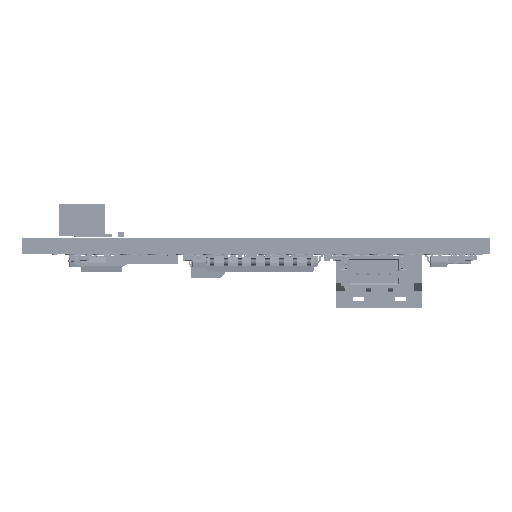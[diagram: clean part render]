
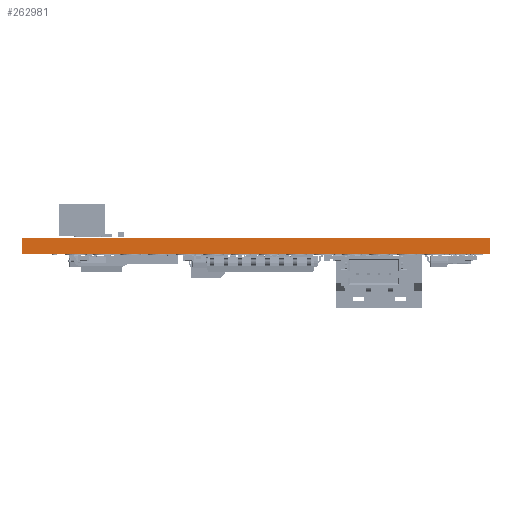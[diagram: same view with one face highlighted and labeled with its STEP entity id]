
A CAD part, left-side view. The second image highlights one B-rep face of the part: STEP entity #262981.
In plain terms, the highlighted planar face has unit normal (-1, 0, 0).
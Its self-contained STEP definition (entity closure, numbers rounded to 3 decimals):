
#262516 = VERTEX_POINT('',#262517);
#262517 = CARTESIAN_POINT('',(0.,43.,0.));
#262523 = EDGE_CURVE('',#262524,#262516,#262526,.T.);
#262524 = VERTEX_POINT('',#262525);
#262525 = CARTESIAN_POINT('',(0.,-0.,0.));
#262526 = LINE('',#262527,#262528);
#262527 = CARTESIAN_POINT('',(0.,-0.,0.));
#262528 = VECTOR('',#262529,1.);
#262529 = DIRECTION('',(0.,1.,0.));
#262735 = VERTEX_POINT('',#262736);
#262736 = CARTESIAN_POINT('',(0.,43.,1.51));
#262742 = EDGE_CURVE('',#262743,#262735,#262745,.T.);
#262743 = VERTEX_POINT('',#262744);
#262744 = CARTESIAN_POINT('',(0.,0.,1.51));
#262745 = LINE('',#262746,#262747);
#262746 = CARTESIAN_POINT('',(0.,0.,1.51));
#262747 = VECTOR('',#262748,1.);
#262748 = DIRECTION('',(0.,1.,0.));
#262951 = EDGE_CURVE('',#262516,#262735,#262952,.T.);
#262952 = LINE('',#262953,#262954);
#262953 = CARTESIAN_POINT('',(0.,43.,0.));
#262954 = VECTOR('',#262955,1.);
#262955 = DIRECTION('',(0.,0.,1.));
#262981 = ADVANCED_FACE('',(#262982),#262993,.T.);
#262982 = FACE_BOUND('',#262983,.T.);
#262983 = EDGE_LOOP('',(#262984,#262990,#262991,#262992));
#262984 = ORIENTED_EDGE('',*,*,#262985,.T.);
#262985 = EDGE_CURVE('',#262524,#262743,#262986,.T.);
#262986 = LINE('',#262987,#262988);
#262987 = CARTESIAN_POINT('',(0.,-0.,0.));
#262988 = VECTOR('',#262989,1.);
#262989 = DIRECTION('',(0.,0.,1.));
#262990 = ORIENTED_EDGE('',*,*,#262742,.T.);
#262991 = ORIENTED_EDGE('',*,*,#262951,.F.);
#262992 = ORIENTED_EDGE('',*,*,#262523,.F.);
#262993 = PLANE('',#262994);
#262994 = AXIS2_PLACEMENT_3D('',#262995,#262996,#262997);
#262995 = CARTESIAN_POINT('',(0.,0.,0.));
#262996 = DIRECTION('',(-1.,0.,0.));
#262997 = DIRECTION('',(0.,1.,0.));
